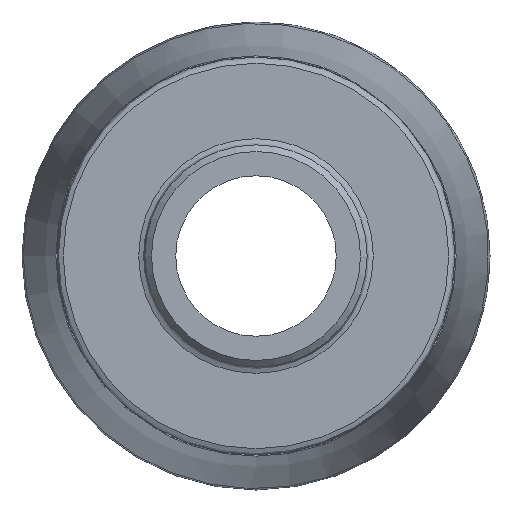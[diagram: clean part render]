
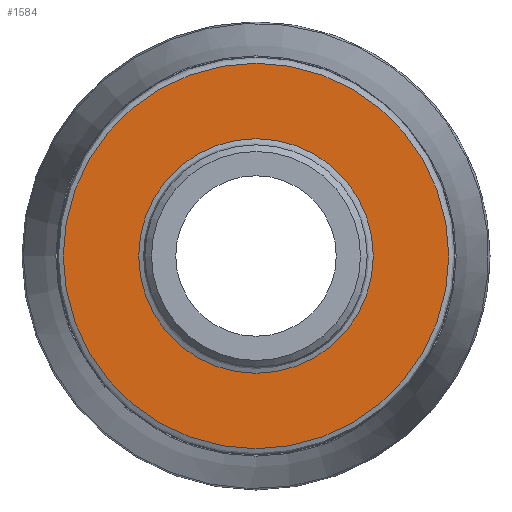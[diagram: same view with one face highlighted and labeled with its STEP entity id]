
A CAD part, left-side view. The second image highlights one B-rep face of the part: STEP entity #1584.
In plain terms, the highlighted planar face has unit normal (-1, 0, 0).
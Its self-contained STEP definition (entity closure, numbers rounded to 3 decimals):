
#262=PLANE('',#1742);
#356=FACE_BOUND('',#504,.T.);
#392=FACE_OUTER_BOUND('',#503,.T.);
#503=EDGE_LOOP('',(#1230));
#504=EDGE_LOOP('',(#1231));
#632=CIRCLE('',#1741,17.55);
#633=CIRCLE('',#1743,28.825);
#742=VERTEX_POINT('',#2825);
#743=VERTEX_POINT('',#2828);
#920=EDGE_CURVE('',#742,#742,#632,.T.);
#921=EDGE_CURVE('',#743,#743,#633,.T.);
#1230=ORIENTED_EDGE('',*,*,#921,.F.);
#1231=ORIENTED_EDGE('',*,*,#920,.F.);
#1584=ADVANCED_FACE('',(#392,#356),#262,.T.);
#1741=AXIS2_PLACEMENT_3D('',#2826,#2035,#2036);
#1742=AXIS2_PLACEMENT_3D('',#2827,#2037,#2038);
#1743=AXIS2_PLACEMENT_3D('',#2829,#2039,#2040);
#2035=DIRECTION('center_axis',(-1.,0.,0.));
#2036=DIRECTION('ref_axis',(0.,-1.,0.));
#2037=DIRECTION('center_axis',(-1.,0.,0.));
#2038=DIRECTION('ref_axis',(0.,0.,1.));
#2039=DIRECTION('center_axis',(1.,0.,0.));
#2040=DIRECTION('ref_axis',(0.,-1.,0.));
#2825=CARTESIAN_POINT('',(19.,17.55,0.));
#2826=CARTESIAN_POINT('Origin',(19.,0.,0.));
#2827=CARTESIAN_POINT('Origin',(19.,29.75,0.));
#2828=CARTESIAN_POINT('',(19.,28.825,0.));
#2829=CARTESIAN_POINT('Origin',(19.,0.,0.));
